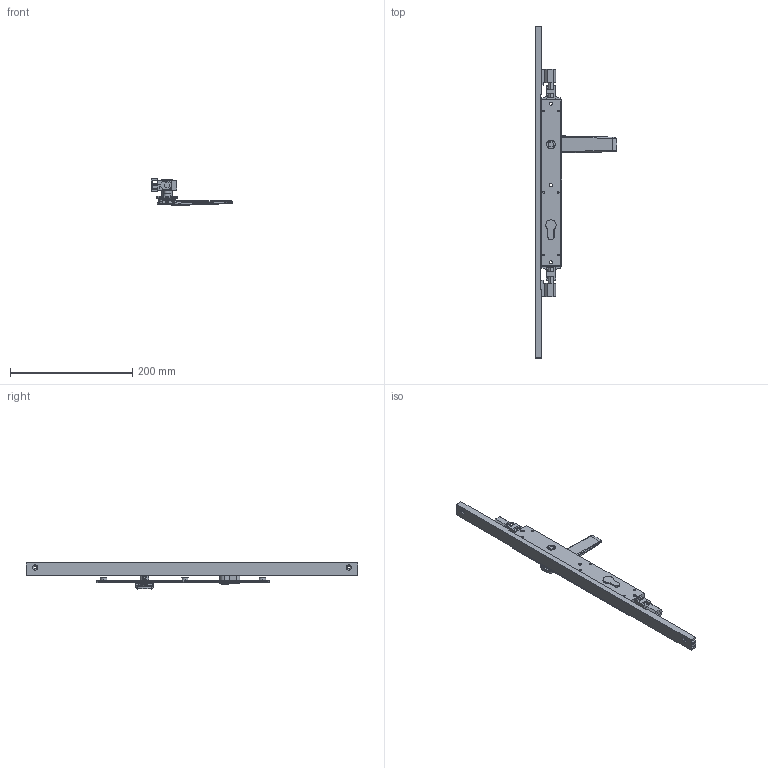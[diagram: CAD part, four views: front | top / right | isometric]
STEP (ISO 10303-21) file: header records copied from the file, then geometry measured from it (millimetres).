
FILE_DESCRIPTION (( 'STEP AP214' ), '1' );
FILE_NAME ('TPL-W-APC-609-U 28Oct2024.STEP', '2024-10-28T03:18:48', ( '' ), ( '' ), 'SwSTEP 2.0', 'SolidWorks 2023', '' );
FILE_SCHEMA (( 'AUTOMOTIVE_DESIGN' ));
Length unit declared in the file: millimetre
Products named in the file (19): Copy of Adapter D - simplfied^TPL-W-APC-109 18Oct2024; Copy of LKC-585 Rotator body zinc^Copy of TPGen2 handle keyed internal zinc - simplified_TPL-W-APC-109 18Oct2024; Copy of TPL-022 Lock cylinder single 3 pin 23mm^TPL-W-APC-109 18Oct2024_Right; Copy of COV-115-C Cover C suit TPLGen2 standard range AU^TPL-W-APC-109 18Oct2024; Copy of LKC-584 Pivot body zinc - simplified^Copy of TPGen2 handle keyed internal zinc - simplified_TPL-W-APC-109 18Oct2024; Copy of COV-115-A Cover A suit TPLGen2 standard range AU with hinge holes^TPL-W-APC-109 18Oct2024_2870mm; Copy of TPLGen2 push rod - simplified^Copy of TPLGen2 lock body keyed assembly_TPL-W-APC-109 18Oct2024_Female thread M10; Copy of TPLGen2 lock body keyed assembly^TPL-W-APC-109 18Oct2024_Bolts retracted; Copy of TPGen2 handle keyed internal zinc - simplified^TPL-W-APC-109 18Oct2024_Left; Copy of TPLGen2 lock body keyed^Copy of TPLGen2 lock body keyed assembly_TPL-W-APC-109 18Oct2024; Copy of COV-115-B Cover B suit TPLGen2 standard range AU with hinge holes^TPL-W-APC-109 18Oct2024_2870mm; Bolt.step; TPL-W-APC-609-U 28Oct2024; Copy of Copy of LKC-531 Lock twinpoint transmission rod wood system^TPL-W-APC-109 18Oct2024_Standard Range 2891.7mm; Copy of Copy of Copy of LKC-531 Lock twinpoint transmission rod wood system^TPL-W-APC-109 18Oct2024_Standard Range 2891.7mm; Copy of LKC-586 Spindle square 8mm with M4 hole^Copy of TPGen2 handle keyed internal zinc - simplified_TPL-W-APC-109 18Oct2024_25mm; Copy of LKC-512 Escutcheon plate keyed internal 285mm long zinc - simplified^Copy of TPGen2 handle keyed internal zinc - simplified_TPL-W-APC-109 18Oct2024; Copy of LKC-505 Swing handle zinc - simplified^Copy of TPGen2 handle keyed internal zinc - simplified_TPL-W-APC-109 18Oct2024; Copy of Adapter C - simplfied^TPL-W-APC-109 18Oct2024
Assembly tree (16 placements, depth 3):
  Copy of COV-115-A Cover A suit TPLGen2 standard range AU with hinge holes^TPL-W-APC-109 18Oct2024_2870mm
  Copy of COV-115-B Cover B suit TPLGen2 standard range AU with hinge holes^TPL-W-APC-109 18Oct2024_2870mm
  Bolt.step
  TPL-W-APC-609-U 28Oct2024
    Copy of TPLGen2 lock body keyed assembly^TPL-W-APC-109 18Oct2024_Bolts retracted
      Copy of TPLGen2 lock body keyed^Copy of TPLGen2 lock body keyed assembly_TPL-W-APC-109 18Oct2024
      Copy of TPLGen2 push rod - simplified^Copy of TPLGen2 lock body keyed assembly_TPL-W-APC-109 18Oct2024_Female thread M10  x2
    Copy of TPGen2 handle keyed internal zinc - simplified^TPL-W-APC-109 18Oct2024_Left
      Copy of LKC-512 Escutcheon plate keyed internal 285mm long zinc - simplified^Copy of TPGen2 handle keyed internal zinc - simplified_TPL-W-APC-109 18Oct2024
      Copy of LKC-505 Swing handle zinc - simplified^Copy of TPGen2 handle keyed internal zinc - simplified_TPL-W-APC-109 18Oct2024
      Copy of LKC-585 Rotator body zinc^Copy of TPGen2 handle keyed internal zinc - simplified_TPL-W-APC-109 18Oct2024
      Copy of LKC-586 Spindle square 8mm with M4 hole^Copy of TPGen2 handle keyed internal zinc - simplified_TPL-W-APC-109 18Oct2024_25mm
      Copy of LKC-584 Pivot body zinc - simplified^Copy of TPGen2 handle keyed internal zinc - simplified_TPL-W-APC-109 18Oct2024
    Copy of TPL-022 Lock cylinder single 3 pin 23mm^TPL-W-APC-109 18Oct2024_Right
    Copy of COV-115-C Cover C suit TPLGen2 standard range AU^TPL-W-APC-109 18Oct2024
    Copy of Copy of LKC-531 Lock twinpoint transmission rod wood system^TPL-W-APC-109 18Oct2024_Standard Range 2891.7mm
    Copy of Copy of Copy of LKC-531 Lock twinpoint transmission rod wood system^TPL-W-APC-109 18Oct2024_Standard Range 2891.7mm
    Copy of Adapter C - simplfied^TPL-W-APC-109 18Oct2024
    Copy of Adapter D - simplfied^TPL-W-APC-109 18Oct2024
Bounding box: 134.12 x 544 x 42.86 mm (x, y, z)
Volume: 276520.6 mm3; surface area: 133706.5 mm2
Topology: 14 solids, 14 shells, 912 faces, 2266 edges, 1412 vertices
Faces by surface type: plane 321, bspline 241, cylinder 225, cone 71, torus 46, sphere 8
Entity records: 32807 total; most frequent: CARTESIAN_POINT 13002, ORIENTED_EDGE 4340, DIRECTION 3577, EDGE_CURVE 2170, VERTEX_POINT 1352, AXIS2_PLACEMENT_3D 1317, EDGE_LOOP 976, VECTOR 943
